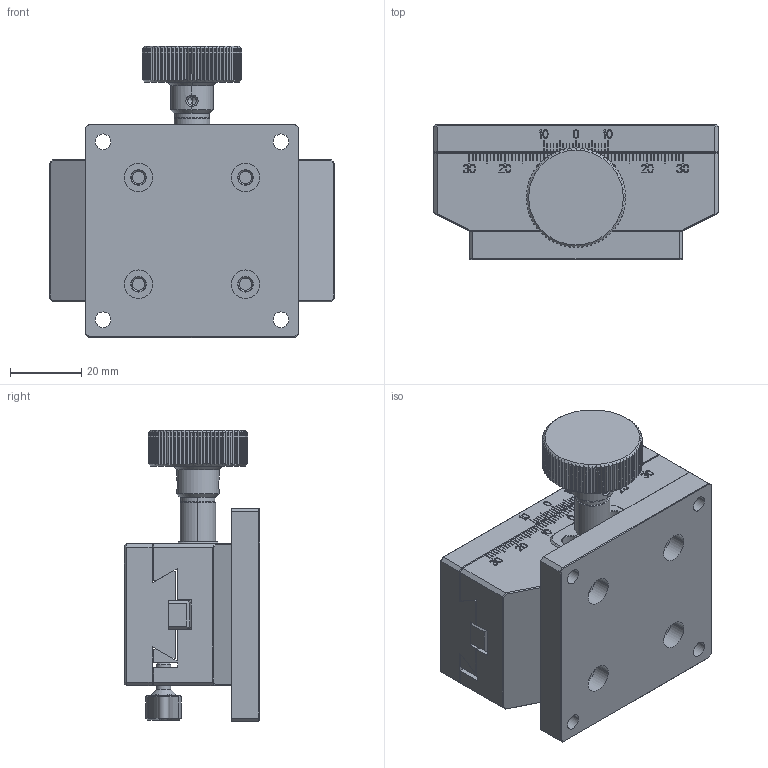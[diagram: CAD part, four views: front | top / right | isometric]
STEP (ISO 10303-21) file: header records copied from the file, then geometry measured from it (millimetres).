
FILE_DESCRIPTION((''),'2;1');
FILE_NAME('ASSY-40-80-ST50B_ASM','2022-02-17T15:25:52',('windows10'),(''),'CREO PARAMETRIC BY PTC INC, 2018260','CREO PARAMETRIC BY PTC INC, 2018260','');
FILE_SCHEMA(('CONFIG_CONTROL_DESIGN'));
Length unit declared in the file: millimetre
Products named in the file (15): BASE-60; BOTTOM-40-80-F-NEW; HOLDER-PINION-16D3; PINION-4-41; WHASHER-9D6-4D1-1D2; HANDLE-28-19; ASSY-HANDLE-28-51D8_ASM; TOP-40-80-M; RACK-8-6-80; ASSY-TOP-40-80-M_ASM; STOPPER-A-NEW; LEVER-NEW; ASSY-STOPPER-NEW_ASM; ASSY-40-80-ST50_ASM; ASSY-40-80-ST50B_ASM
Assembly tree (14 placements, depth 4):
  ASSY-40-80-ST50B_ASM
    BASE-60
    ASSY-40-80-ST50_ASM
      BOTTOM-40-80-F-NEW
      ASSY-HANDLE-28-51D8_ASM
        HOLDER-PINION-16D3
        PINION-4-41
        WHASHER-9D6-4D1-1D2
        HANDLE-28-19
      ASSY-TOP-40-80-M_ASM
        TOP-40-80-M
        RACK-8-6-80
      ASSY-STOPPER-NEW_ASM
        STOPPER-A-NEW
        LEVER-NEW
Bounding box: 80 x 38 x 81.8 mm (x, y, z)
Volume: 124317.8 mm3; surface area: 46566.5 mm2
Topology: 10 solids, 10 shells, 1873 faces, 4889 edges, 3185 vertices
Faces by surface type: plane 1451, cylinder 266, cone 146, torus 6, bspline 4
Entity records: 58100 total; most frequent: CARTESIAN_POINT 11689, ORIENTED_EDGE 9766, DIRECTION 9053, EDGE_CURVE 4883, VECTOR 3869, LINE 3869, VERTEX_POINT 3185, AXIS2_PLACEMENT_3D 2592
